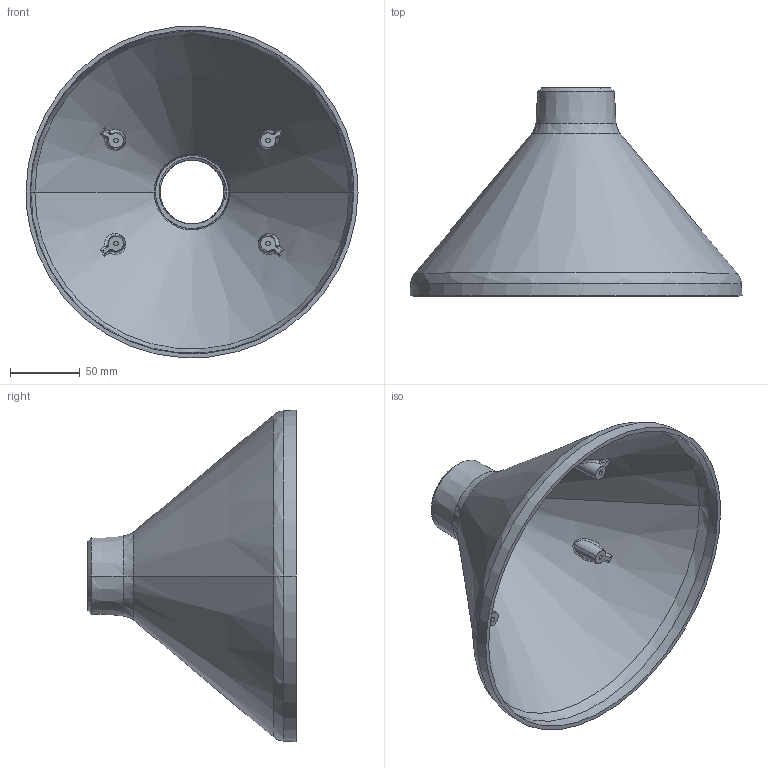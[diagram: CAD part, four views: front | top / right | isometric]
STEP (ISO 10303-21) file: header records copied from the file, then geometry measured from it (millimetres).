
FILE_DESCRIPTION (( 'STEP AP203' ), '1' );
FILE_NAME ('110A075 Adapter, Panasonic (WV-SFV781L).STEP', '2021-09-21T15:53:08', ( '' ), ( '' ), 'SwSTEP 2.0', 'SolidWorks 2021', '' );
FILE_SCHEMA (( 'CONFIG_CONTROL_DESIGN' ));
Length unit declared in the file: millimetre
Products named in the file (1): 110A075  Adapter, Panasonic  (WV-SFV781L)
Bounding box: 238.05 x 149.22 x 237.75 mm (x, y, z)
Volume: 242118 mm3; surface area: 162306.9 mm2
Topology: 1 solids, 1 shells, 123 faces, 286 edges, 174 vertices
Faces by surface type: bspline 42, cylinder 36, cone 26, plane 19
Entity records: 12966 total; most frequent: CARTESIAN_POINT 10791, ORIENTED_EDGE 572, EDGE_CURVE 286, B_SPLINE_CURVE_WITH_KNOTS 278, VERTEX_POINT 174, DIRECTION 172, EDGE_LOOP 134, ADVANCED_FACE 123
